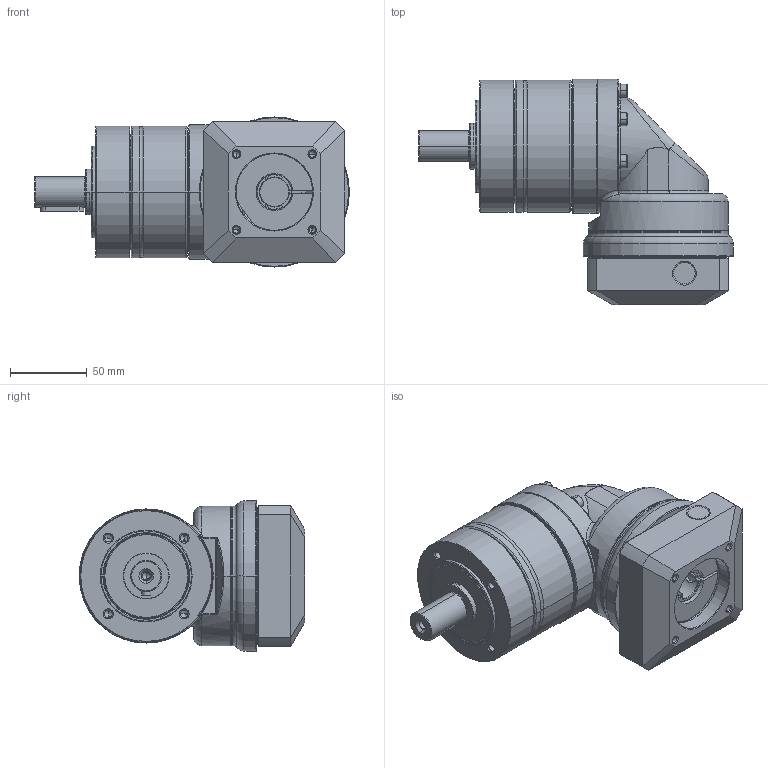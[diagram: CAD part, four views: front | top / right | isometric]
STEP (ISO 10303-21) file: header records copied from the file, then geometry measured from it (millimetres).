
FILE_DESCRIPTION((''),'2;1');
FILE_NAME('PG2R-080_1ST_19-P0411400101_ASM','2016-04-20T',('d01943'),(''),'PRO/ENGINEER BY PARAMETRIC TECHNOLOGY CORPORATION, 2008410','PRO/ENGINEER BY PARAMETRIC TECHNOLOGY CORPORATION, 2008410','');
FILE_SCHEMA(('CONFIG_CONTROL_DESIGN'));
Length unit declared in the file: millimetre
Products named in the file (12): P1325310001; P0250300001; P0350301103; P1349300001; P1017300001; P0713301001; P0503400008; P1350300101; P0411400101; P1702500001; 2111BA05025; PG2R-080_1ST_19-P0411400101_ASM
Assembly tree (16 placements, depth 2):
  PG2R-080_1ST_19-P0411400101_ASM
    P1325310001
    P0250300001
    P0350301103
    P1349300001
    P1017300001
    P0713301001
    P0503400008
    P1350300101
    P0411400101
    P1702500001
    2111BA05025  x6
Bounding box: 205.5 x 147.25 x 98 mm (x, y, z)
Volume: 817501.8 mm3; surface area: 201641.2 mm2
Topology: 16 solids, 17 shells, 791 faces, 1738 edges, 1004 vertices
Faces by surface type: cylinder 246, cone 224, plane 191, torus 98, bspline 32
Entity records: 23161 total; most frequent: CARTESIAN_POINT 9090, DIRECTION 3131, ORIENTED_EDGE 2708, EDGE_CURVE 1354, AXIS2_PLACEMENT_3D 1319, VERTEX_POINT 804, EDGE_LOOP 710, CIRCLE 697
